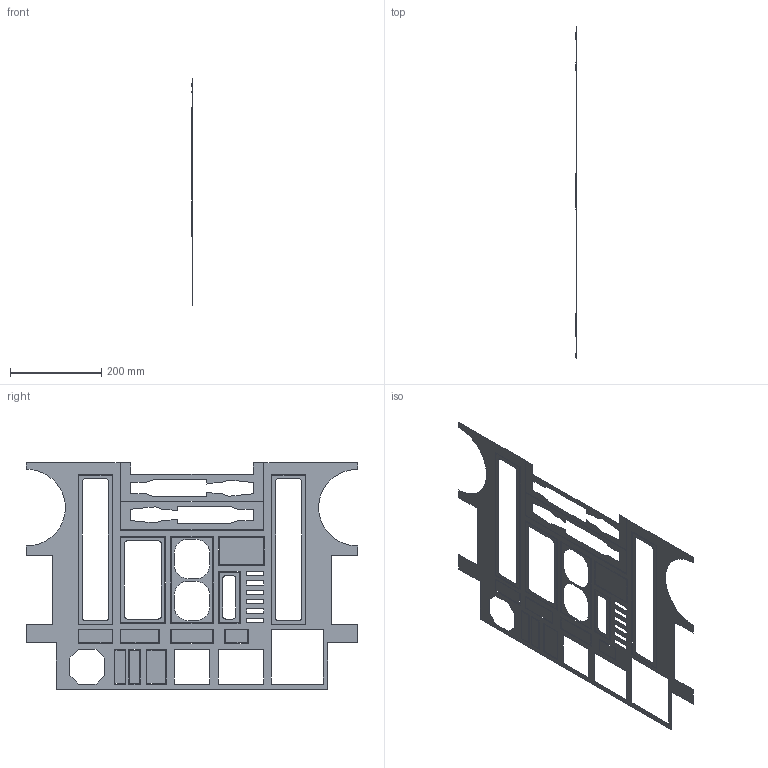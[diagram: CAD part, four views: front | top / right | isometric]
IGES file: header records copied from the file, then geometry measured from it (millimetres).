
Start section: 3D InterOp IGES (Version 21 0 3), Spatial Corp. Copyright (c) 1999-2007.
Global section: file name: CSR SKIN Outer Front ESB - 20140501_2DSurface.igs; native system: Spatial Corp.; preprocessor: 3D InterOp GENERIC/IGES 3.0; author: Noname; organization: Noname; date: 20140521.231900; units: inch
Bounding box: 0 x 728.14 x 496.89 mm (x, y, z)
Surface area: 176457.1 mm2 (no closed solid volume)
Topology: 0 solids, 0 shells, 16 faces, 271 edges, 271 vertices
Faces by surface type: extrusion 16
